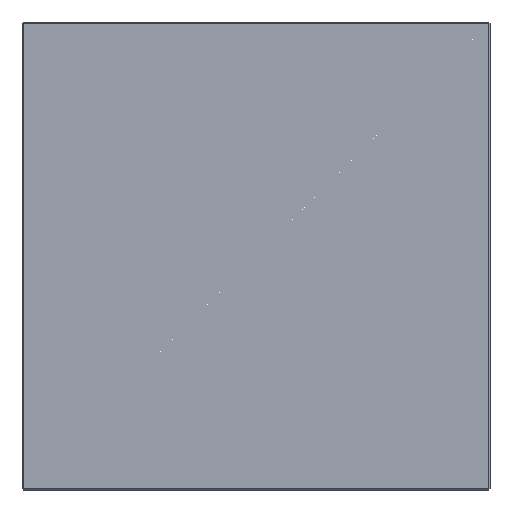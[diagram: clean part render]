
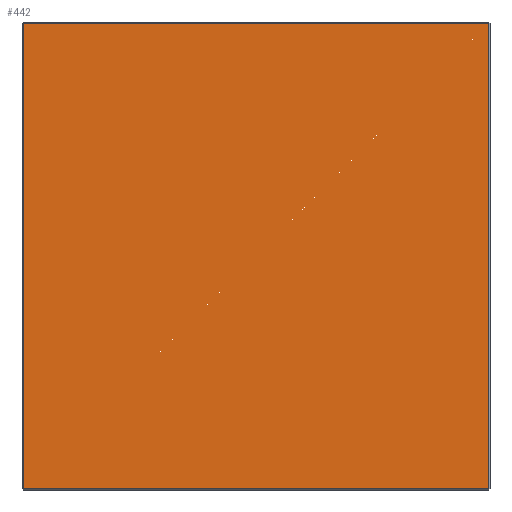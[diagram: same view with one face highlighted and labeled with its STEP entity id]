
A CAD part, front view. The second image highlights one B-rep face of the part: STEP entity #442.
In plain terms, the highlighted planar face has unit normal (0, -1, 0).
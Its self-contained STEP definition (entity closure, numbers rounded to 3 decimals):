
#2 = VECTOR ( 'NONE', #283, 1000. ) ;
#46 = ORIENTED_EDGE ( 'NONE', *, *, #383, .T. ) ;
#52 = FACE_OUTER_BOUND ( 'NONE', #236, .T. ) ;
#53 = CARTESIAN_POINT ( 'NONE',  ( 172., 0., 0. ) ) ;
#68 = LINE ( 'NONE', #345, #210 ) ;
#90 = VERTEX_POINT ( 'NONE', #531 ) ;
#91 = ORIENTED_EDGE ( 'NONE', *, *, #550, .T. ) ;
#100 = LINE ( 'NONE', #343, #2 ) ;
#109 = LINE ( 'NONE', #53, #265 ) ;
#137 = CARTESIAN_POINT ( 'NONE',  ( 172., 0., -172. ) ) ;
#195 = VERTEX_POINT ( 'NONE', #637 ) ;
#210 = VECTOR ( 'NONE', #562, 1000. ) ;
#227 = AXIS2_PLACEMENT_3D ( 'NONE', #407, #366, #583 ) ;
#236 = EDGE_LOOP ( 'NONE', ( #91, #391, #46, #618 ) ) ;
#265 = VECTOR ( 'NONE', #488, 1000. ) ;
#267 = PLANE ( 'NONE',  #227 ) ;
#283 = DIRECTION ( 'NONE',  ( -1., 0., 0. ) ) ;
#343 = CARTESIAN_POINT ( 'NONE',  ( 0., 0., 172. ) ) ;
#345 = CARTESIAN_POINT ( 'NONE',  ( 0., 0., -172. ) ) ;
#354 = LINE ( 'NONE', #622, #375 ) ;
#366 = DIRECTION ( 'NONE',  ( 0., 1., 0. ) ) ;
#372 = EDGE_CURVE ( 'NONE', #90, #195, #100, .T. ) ;
#375 = VECTOR ( 'NONE', #616, 1000. ) ;
#383 = EDGE_CURVE ( 'NONE', #195, #430, #354, .T. ) ;
#391 = ORIENTED_EDGE ( 'NONE', *, *, #372, .T. ) ;
#407 = CARTESIAN_POINT ( 'NONE',  ( 0., 0., 0. ) ) ;
#430 = VERTEX_POINT ( 'NONE', #564 ) ;
#442 = ADVANCED_FACE ( 'NONE', ( #52 ), #267, .F. ) ;
#488 = DIRECTION ( 'NONE',  ( 0., 0., 1. ) ) ;
#531 = CARTESIAN_POINT ( 'NONE',  ( 172., 0., 172. ) ) ;
#550 = EDGE_CURVE ( 'NONE', #589, #90, #109, .T. ) ;
#562 = DIRECTION ( 'NONE',  ( 1., 0., 0. ) ) ;
#564 = CARTESIAN_POINT ( 'NONE',  ( -172., 0., -172. ) ) ;
#583 = DIRECTION ( 'NONE',  ( 0., 0., 1. ) ) ;
#589 = VERTEX_POINT ( 'NONE', #137 ) ;
#616 = DIRECTION ( 'NONE',  ( 0., 0., -1. ) ) ;
#618 = ORIENTED_EDGE ( 'NONE', *, *, #640, .T. ) ;
#622 = CARTESIAN_POINT ( 'NONE',  ( -172., 0., 0. ) ) ;
#637 = CARTESIAN_POINT ( 'NONE',  ( -172., 0., 172. ) ) ;
#640 = EDGE_CURVE ( 'NONE', #430, #589, #68, .T. ) ;
